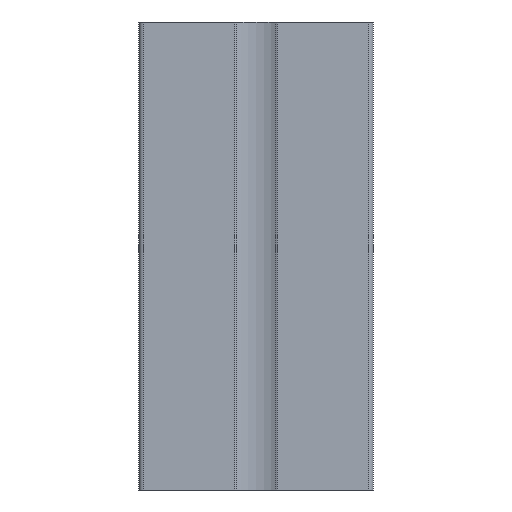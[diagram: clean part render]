
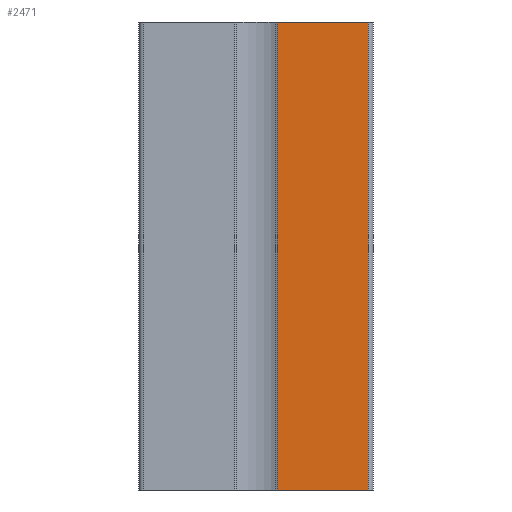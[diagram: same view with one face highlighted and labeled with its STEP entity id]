
A CAD part, front view. The second image highlights one B-rep face of the part: STEP entity #2471.
In plain terms, the highlighted planar face has unit normal (0, -1, 0).
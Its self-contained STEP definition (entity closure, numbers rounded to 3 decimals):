
#32 = CARTESIAN_POINT ( 'NONE',  ( 4.5, -25., -100. ) ) ;
#103 = DIRECTION ( 'NONE',  ( 0., 0., -1. ) ) ;
#206 = ORIENTED_EDGE ( 'NONE', *, *, #2370, .T. ) ;
#250 = ORIENTED_EDGE ( 'NONE', *, *, #642, .F. ) ;
#404 = FACE_OUTER_BOUND ( 'NONE', #1240, .T. ) ;
#450 = EDGE_CURVE ( 'NONE', #1468, #1064, #3066, .T. ) ;
#474 = DIRECTION ( 'NONE',  ( 0., 0., 1. ) ) ;
#481 = CARTESIAN_POINT ( 'NONE',  ( 24., -25., 0. ) ) ;
#642 = EDGE_CURVE ( 'NONE', #2055, #3236, #1046, .T. ) ;
#1034 = AXIS2_PLACEMENT_3D ( 'NONE', #1452, #2178, #103 ) ;
#1046 = LINE ( 'NONE', #1568, #2645 ) ;
#1064 = VERTEX_POINT ( 'NONE', #481 ) ;
#1240 = EDGE_LOOP ( 'NONE', ( #1488, #250, #206, #2556 ) ) ;
#1452 = CARTESIAN_POINT ( 'NONE',  ( 4.5, -25., -100. ) ) ;
#1454 = VECTOR ( 'NONE', #1609, 1000. ) ;
#1468 = VERTEX_POINT ( 'NONE', #1973 ) ;
#1488 = ORIENTED_EDGE ( 'NONE', *, *, #3124, .F. ) ;
#1489 = CARTESIAN_POINT ( 'NONE',  ( 4.5, -25., -100. ) ) ;
#1568 = CARTESIAN_POINT ( 'NONE',  ( 4.5, -25., -100. ) ) ;
#1609 = DIRECTION ( 'NONE',  ( 1., 0., 0. ) ) ;
#1948 = PLANE ( 'NONE',  #1034 ) ;
#1973 = CARTESIAN_POINT ( 'NONE',  ( 24., -25., -100. ) ) ;
#1980 = VECTOR ( 'NONE', #2496, 1000. ) ;
#2055 = VERTEX_POINT ( 'NONE', #1489 ) ;
#2178 = DIRECTION ( 'NONE',  ( 0., -1., 0. ) ) ;
#2265 = CARTESIAN_POINT ( 'NONE',  ( 24., -25., -100. ) ) ;
#2370 = EDGE_CURVE ( 'NONE', #2055, #1468, #2597, .T. ) ;
#2424 = VECTOR ( 'NONE', #474, 1000. ) ;
#2471 = ADVANCED_FACE ( 'NONE', ( #404 ), #1948, .T. ) ;
#2496 = DIRECTION ( 'NONE',  ( 1., 0., 0. ) ) ;
#2550 = LINE ( 'NONE', #3322, #1980 ) ;
#2556 = ORIENTED_EDGE ( 'NONE', *, *, #450, .T. ) ;
#2597 = LINE ( 'NONE', #32, #1454 ) ;
#2607 = DIRECTION ( 'NONE',  ( 0., 0., 1. ) ) ;
#2645 = VECTOR ( 'NONE', #2607, 1000. ) ;
#3066 = LINE ( 'NONE', #2265, #2424 ) ;
#3093 = CARTESIAN_POINT ( 'NONE',  ( 4.5, -25., 0. ) ) ;
#3124 = EDGE_CURVE ( 'NONE', #3236, #1064, #2550, .T. ) ;
#3236 = VERTEX_POINT ( 'NONE', #3093 ) ;
#3322 = CARTESIAN_POINT ( 'NONE',  ( 4.5, -25., 0. ) ) ;
